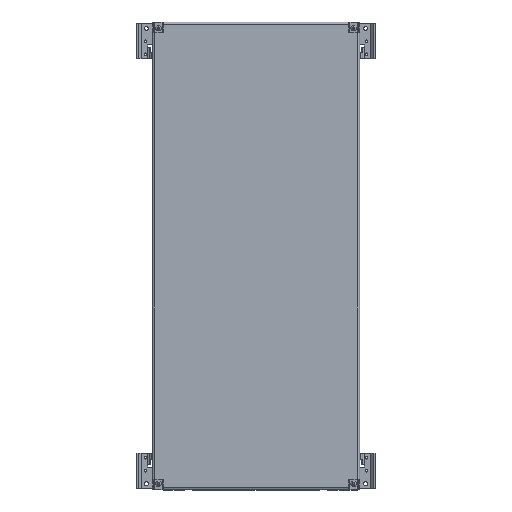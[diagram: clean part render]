
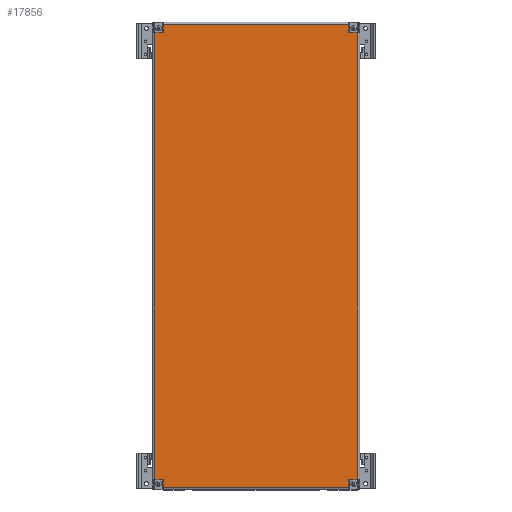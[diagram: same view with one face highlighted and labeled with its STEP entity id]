
A CAD part, top view. The second image highlights one B-rep face of the part: STEP entity #17856.
In plain terms, the highlighted planar face has unit normal (0, 0, 1).
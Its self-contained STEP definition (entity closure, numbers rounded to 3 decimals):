
#458 = VECTOR ( 'NONE', #6842, 1000. ) ;
#645 = EDGE_CURVE ( 'NONE', #4894, #26772, #34326, .T. ) ;
#978 = DIRECTION ( 'NONE',  ( 0., 0., 1. ) ) ;
#1135 = CARTESIAN_POINT ( 'NONE',  ( -179.5, -428.5, 0. ) ) ;
#1185 = CARTESIAN_POINT ( 'NONE',  ( -199.5, -428.5, 0. ) ) ;
#1448 = EDGE_CURVE ( 'NONE', #12535, #2074, #23984, .T. ) ;
#1720 = EDGE_CURVE ( 'NONE', #32495, #29552, #36692, .T. ) ;
#1800 = CARTESIAN_POINT ( 'NONE',  ( -178.5, -449.5, 0. ) ) ;
#2074 = VERTEX_POINT ( 'NONE', #37837 ) ;
#2421 = ORIENTED_EDGE ( 'NONE', *, *, #645, .T. ) ;
#2537 = DIRECTION ( 'NONE',  ( 0., 1., 0. ) ) ;
#2755 = AXIS2_PLACEMENT_3D ( 'NONE', #34635, #15851, #22252 ) ;
#3585 = VERTEX_POINT ( 'NONE', #16673 ) ;
#3714 = CARTESIAN_POINT ( 'NONE',  ( 0., 0., 0. ) ) ;
#3848 = VECTOR ( 'NONE', #25951, 1000. ) ;
#3926 = CARTESIAN_POINT ( 'NONE',  ( 178.5, 449.5, 0. ) ) ;
#4894 = VERTEX_POINT ( 'NONE', #13950 ) ;
#5490 = DIRECTION ( 'NONE',  ( 1., 0., 0. ) ) ;
#5637 = LINE ( 'NONE', #30663, #16469 ) ;
#6123 = LINE ( 'NONE', #16188, #3848 ) ;
#6264 = DIRECTION ( 'NONE',  ( 0., -1., 0. ) ) ;
#6842 = DIRECTION ( 'NONE',  ( -1., 0., 0. ) ) ;
#6860 = CARTESIAN_POINT ( 'NONE',  ( 179.5, -428.5, 0. ) ) ;
#6969 = DIRECTION ( 'NONE',  ( 1., 0., 0. ) ) ;
#7502 = EDGE_CURVE ( 'NONE', #35800, #29552, #10917, .T. ) ;
#8509 = CIRCLE ( 'NONE', #27674, 1. ) ;
#9330 = LINE ( 'NONE', #34551, #11175 ) ;
#9691 = CARTESIAN_POINT ( 'NONE',  ( 178.5, 444.5, 0. ) ) ;
#10216 = EDGE_CURVE ( 'NONE', #34633, #19335, #8509, .T. ) ;
#10290 = CARTESIAN_POINT ( 'NONE',  ( 179.5, 428.5, 0. ) ) ;
#10605 = VERTEX_POINT ( 'NONE', #21210 ) ;
#10690 = DIRECTION ( 'NONE',  ( 0., -1., 0. ) ) ;
#10757 = EDGE_CURVE ( 'NONE', #10605, #19335, #6123, .T. ) ;
#10794 = CARTESIAN_POINT ( 'NONE',  ( -179.5, 428.5, 0. ) ) ;
#10917 = CIRCLE ( 'NONE', #37321, 1. ) ;
#11175 = VECTOR ( 'NONE', #6264, 1000. ) ;
#11266 = CARTESIAN_POINT ( 'NONE',  ( 199.5, 428.5, 0. ) ) ;
#11385 = AXIS2_PLACEMENT_3D ( 'NONE', #16783, #13677, #38275 ) ;
#11662 = DIRECTION ( 'NONE',  ( 1., 0., 0. ) ) ;
#12312 = ORIENTED_EDGE ( 'NONE', *, *, #14304, .F. ) ;
#12351 = CARTESIAN_POINT ( 'NONE',  ( 178.5, -444.5, 0. ) ) ;
#12535 = VERTEX_POINT ( 'NONE', #10290 ) ;
#12883 = EDGE_CURVE ( 'NONE', #32495, #21465, #38568, .T. ) ;
#13411 = CARTESIAN_POINT ( 'NONE',  ( -178.5, -429.5, 0. ) ) ;
#13677 = DIRECTION ( 'NONE',  ( 0., 0., -1. ) ) ;
#13806 = DIRECTION ( 'NONE',  ( -1., 0., 0. ) ) ;
#13950 = CARTESIAN_POINT ( 'NONE',  ( 178.5, 444.5, 0. ) ) ;
#14015 = LINE ( 'NONE', #1185, #19226 ) ;
#14304 = EDGE_CURVE ( 'NONE', #26710, #21465, #38060, .T. ) ;
#14421 = ORIENTED_EDGE ( 'NONE', *, *, #12883, .T. ) ;
#14561 = EDGE_CURVE ( 'NONE', #3585, #28782, #17813, .T. ) ;
#14778 = DIRECTION ( 'NONE',  ( 0., 0., -1. ) ) ;
#15851 = DIRECTION ( 'NONE',  ( 0., 0., -1. ) ) ;
#16188 = CARTESIAN_POINT ( 'NONE',  ( -199.5, 428.5, 0. ) ) ;
#16469 = VECTOR ( 'NONE', #24880, 1000. ) ;
#16673 = CARTESIAN_POINT ( 'NONE',  ( 194.5, -428.5, 0. ) ) ;
#16783 = CARTESIAN_POINT ( 'NONE',  ( 179.5, 429.5, 0. ) ) ;
#17697 = DIRECTION ( 'NONE',  ( 0., 1., 0. ) ) ;
#17813 = LINE ( 'NONE', #27374, #19835 ) ;
#17818 = VECTOR ( 'NONE', #10690, 1000. ) ;
#17819 = EDGE_CURVE ( 'NONE', #4894, #2074, #22948, .T. ) ;
#17856 = ADVANCED_FACE ( 'NONE', ( #29502 ), #29727, .T. ) ;
#19211 = ORIENTED_EDGE ( 'NONE', *, *, #7502, .T. ) ;
#19226 = VECTOR ( 'NONE', #13806, 1000. ) ;
#19335 = VERTEX_POINT ( 'NONE', #10794 ) ;
#19441 = CARTESIAN_POINT ( 'NONE',  ( -178.5, 444.5, 0. ) ) ;
#19527 = VECTOR ( 'NONE', #17697, 1000. ) ;
#19610 = DIRECTION ( 'NONE',  ( 1., 0., 0. ) ) ;
#19835 = VECTOR ( 'NONE', #27185, 1000. ) ;
#20007 = DIRECTION ( 'NONE',  ( 0., 0., -1. ) ) ;
#20551 = CIRCLE ( 'NONE', #2755, 1. ) ;
#21210 = CARTESIAN_POINT ( 'NONE',  ( -194.5, 428.5, 0. ) ) ;
#21465 = VERTEX_POINT ( 'NONE', #12351 ) ;
#21606 = ORIENTED_EDGE ( 'NONE', *, *, #35928, .F. ) ;
#22252 = DIRECTION ( 'NONE',  ( 1., 0., 0. ) ) ;
#22597 = CARTESIAN_POINT ( 'NONE',  ( -178.5, 429.5, 0. ) ) ;
#22734 = ORIENTED_EDGE ( 'NONE', *, *, #23735, .F. ) ;
#22948 = LINE ( 'NONE', #3926, #17818 ) ;
#23735 = EDGE_CURVE ( 'NONE', #34633, #26772, #28900, .T. ) ;
#23861 = VECTOR ( 'NONE', #2537, 1000. ) ;
#23881 = EDGE_CURVE ( 'NONE', #35800, #24774, #14015, .T. ) ;
#23984 = CIRCLE ( 'NONE', #11385, 1. ) ;
#24106 = EDGE_CURVE ( 'NONE', #26710, #37078, #20551, .T. ) ;
#24774 = VERTEX_POINT ( 'NONE', #30914 ) ;
#24880 = DIRECTION ( 'NONE',  ( -1., 0., 0. ) ) ;
#24928 = ORIENTED_EDGE ( 'NONE', *, *, #17819, .F. ) ;
#25951 = DIRECTION ( 'NONE',  ( 1., 0., 0. ) ) ;
#26240 = DIRECTION ( 'NONE',  ( 1., 0., 0. ) ) ;
#26521 = ORIENTED_EDGE ( 'NONE', *, *, #10216, .T. ) ;
#26710 = VERTEX_POINT ( 'NONE', #37009 ) ;
#26772 = VERTEX_POINT ( 'NONE', #19441 ) ;
#26815 = ORIENTED_EDGE ( 'NONE', *, *, #36985, .T. ) ;
#26825 = ORIENTED_EDGE ( 'NONE', *, *, #24106, .T. ) ;
#26960 = VECTOR ( 'NONE', #6969, 1000. ) ;
#27185 = DIRECTION ( 'NONE',  ( 0., 1., 0. ) ) ;
#27374 = CARTESIAN_POINT ( 'NONE',  ( 194.5, -428.5, 0. ) ) ;
#27674 = AXIS2_PLACEMENT_3D ( 'NONE', #32622, #20007, #26240 ) ;
#28201 = CARTESIAN_POINT ( 'NONE',  ( 178.5, -449.5, 0. ) ) ;
#28430 = AXIS2_PLACEMENT_3D ( 'NONE', #3714, #978, #19610 ) ;
#28494 = CARTESIAN_POINT ( 'NONE',  ( -178.5, -444.5, 0. ) ) ;
#28782 = VERTEX_POINT ( 'NONE', #31828 ) ;
#28900 = LINE ( 'NONE', #30858, #23861 ) ;
#29502 = FACE_OUTER_BOUND ( 'NONE', #40252, .T. ) ;
#29552 = VERTEX_POINT ( 'NONE', #13411 ) ;
#29727 = PLANE ( 'NONE',  #28430 ) ;
#30663 = CARTESIAN_POINT ( 'NONE',  ( 199.5, -428.5, 0. ) ) ;
#30858 = CARTESIAN_POINT ( 'NONE',  ( -178.5, 449.5, 0. ) ) ;
#30914 = CARTESIAN_POINT ( 'NONE',  ( -194.5, -428.5, 0. ) ) ;
#31496 = DIRECTION ( 'NONE',  ( 0., -1., 0. ) ) ;
#31828 = CARTESIAN_POINT ( 'NONE',  ( 194.5, 428.5, 0. ) ) ;
#32495 = VERTEX_POINT ( 'NONE', #28494 ) ;
#32622 = CARTESIAN_POINT ( 'NONE',  ( -179.5, 429.5, 0. ) ) ;
#32785 = ORIENTED_EDGE ( 'NONE', *, *, #23881, .F. ) ;
#33022 = VECTOR ( 'NONE', #31496, 1000. ) ;
#34326 = LINE ( 'NONE', #9691, #458 ) ;
#34398 = CARTESIAN_POINT ( 'NONE',  ( -179.5, -429.5, 0. ) ) ;
#34551 = CARTESIAN_POINT ( 'NONE',  ( -194.5, 428.5, 0. ) ) ;
#34633 = VERTEX_POINT ( 'NONE', #22597 ) ;
#34635 = CARTESIAN_POINT ( 'NONE',  ( 179.5, -429.5, 0. ) ) ;
#34863 = CARTESIAN_POINT ( 'NONE',  ( -178.5, -444.5, 0. ) ) ;
#35690 = ORIENTED_EDGE ( 'NONE', *, *, #10757, .F. ) ;
#35800 = VERTEX_POINT ( 'NONE', #1135 ) ;
#35928 = EDGE_CURVE ( 'NONE', #12535, #28782, #39563, .T. ) ;
#36613 = ORIENTED_EDGE ( 'NONE', *, *, #1720, .F. ) ;
#36650 = ORIENTED_EDGE ( 'NONE', *, *, #37934, .F. ) ;
#36692 = LINE ( 'NONE', #1800, #19527 ) ;
#36985 = EDGE_CURVE ( 'NONE', #10605, #24774, #9330, .T. ) ;
#37009 = CARTESIAN_POINT ( 'NONE',  ( 178.5, -429.5, 0. ) ) ;
#37078 = VERTEX_POINT ( 'NONE', #6860 ) ;
#37321 = AXIS2_PLACEMENT_3D ( 'NONE', #34398, #14778, #5490 ) ;
#37370 = ORIENTED_EDGE ( 'NONE', *, *, #14561, .T. ) ;
#37432 = VECTOR ( 'NONE', #11662, 1000. ) ;
#37837 = CARTESIAN_POINT ( 'NONE',  ( 178.5, 429.5, 0. ) ) ;
#37934 = EDGE_CURVE ( 'NONE', #3585, #37078, #5637, .T. ) ;
#38060 = LINE ( 'NONE', #28201, #33022 ) ;
#38275 = DIRECTION ( 'NONE',  ( 1., 0., 0. ) ) ;
#38568 = LINE ( 'NONE', #34863, #26960 ) ;
#39493 = ORIENTED_EDGE ( 'NONE', *, *, #1448, .T. ) ;
#39563 = LINE ( 'NONE', #11266, #37432 ) ;
#40252 = EDGE_LOOP ( 'NONE', ( #36613, #14421, #12312, #26825, #36650, #37370, #21606, #39493, #24928, #2421, #22734, #26521, #35690, #26815, #32785, #19211 ) ) ;
